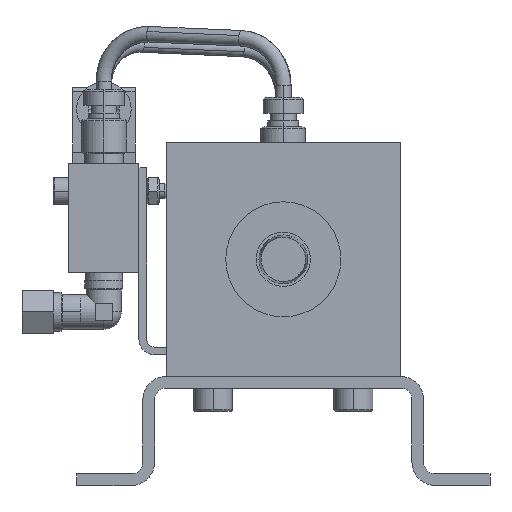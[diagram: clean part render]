
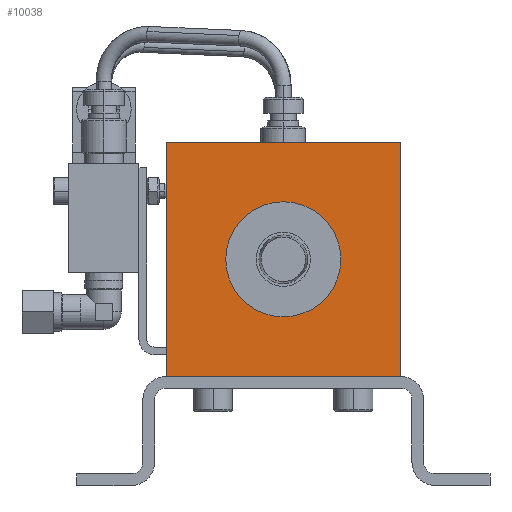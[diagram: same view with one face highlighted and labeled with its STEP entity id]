
A CAD part, left-side view. The second image highlights one B-rep face of the part: STEP entity #10038.
In plain terms, the highlighted planar face has unit normal (-1, 0, 0).
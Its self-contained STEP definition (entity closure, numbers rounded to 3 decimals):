
#432=CARTESIAN_POINT('',(-175.795,-14.75,0.0));
#433=VERTEX_POINT('',#432);
#449=CARTESIAN_POINT('',(-175.795,14.75,0.));
#450=VERTEX_POINT('',#449);
#457=CARTESIAN_POINT('',(-175.795,0.,0.0));
#458=DIRECTION('',(1.0,0.0,0.0));
#459=DIRECTION('',(0.0,-1.0,0.0));
#460=AXIS2_PLACEMENT_3D('',#457,#458,#459);
#461=CIRCLE('',#460,14.75);
#462=EDGE_CURVE('',#433,#450,#461,.T.);
#9536=CARTESIAN_POINT('',(-175.795,0.,0.0));
#9537=DIRECTION('',(1.0,0.0,0.0));
#9538=DIRECTION('',(0.0,-1.0,0.0));
#9539=AXIS2_PLACEMENT_3D('',#9536,#9537,#9538);
#9540=CIRCLE('',#9539,14.75);
#9541=EDGE_CURVE('',#450,#433,#9540,.T.);
#9709=CARTESIAN_POINT('',(-175.795,30.0,-30.));
#9710=VERTEX_POINT('',#9709);
#9711=CARTESIAN_POINT('',(-175.795,30.0,30.));
#9712=VERTEX_POINT('',#9711);
#9713=CARTESIAN_POINT('',(-175.795,30.0,-30.));
#9714=DIRECTION('',(0.0,0.0,1.0));
#9715=VECTOR('',#9714,60.0);
#9716=LINE('',#9713,#9715);
#9717=EDGE_CURVE('',#9710,#9712,#9716,.T.);
#9847=CARTESIAN_POINT('',(-175.795,-30.,30.0));
#9848=VERTEX_POINT('',#9847);
#9849=CARTESIAN_POINT('',(-175.795,30.0,30.));
#9850=DIRECTION('',(0.0,-1.0,0.0));
#9851=VECTOR('',#9850,60.);
#9852=LINE('',#9849,#9851);
#9853=EDGE_CURVE('',#9712,#9848,#9852,.T.);
#9923=CARTESIAN_POINT('',(-175.795,-30.,-30.));
#9924=VERTEX_POINT('',#9923);
#9925=CARTESIAN_POINT('',(-175.795,-30.,30.0));
#9926=DIRECTION('',(0.0,0.0,-1.0));
#9927=VECTOR('',#9926,60.0);
#9928=LINE('',#9925,#9927);
#9929=EDGE_CURVE('',#9848,#9924,#9928,.T.);
#9971=CARTESIAN_POINT('',(-175.795,-30.,-30.));
#9972=DIRECTION('',(0.0,1.0,0.0));
#9973=VECTOR('',#9972,60.);
#9974=LINE('',#9971,#9973);
#9975=EDGE_CURVE('',#9924,#9710,#9974,.T.);
#10023=CARTESIAN_POINT('',(-175.795,0.0,0.));
#10024=DIRECTION('',(1.0,0.0,0.0));
#10025=DIRECTION('',(0.0,0.0,-1.0));
#10026=AXIS2_PLACEMENT_3D('',#10023,#10024,#10025);
#10027=PLANE('',#10026);
#10028=ORIENTED_EDGE('',*,*,#9717,.F.);
#10029=ORIENTED_EDGE('',*,*,#9975,.F.);
#10030=ORIENTED_EDGE('',*,*,#9929,.F.);
#10031=ORIENTED_EDGE('',*,*,#9853,.F.);
#10032=EDGE_LOOP('',(#10028,#10029,#10030,#10031));
#10033=FACE_OUTER_BOUND('',#10032,.T.);
#10034=ORIENTED_EDGE('',*,*,#462,.T.);
#10035=ORIENTED_EDGE('',*,*,#9541,.T.);
#10036=EDGE_LOOP('',(#10034,#10035));
#10037=FACE_BOUND('',#10036,.T.);
#10038=ADVANCED_FACE('',(#10033,#10037),#10027,.F.);
